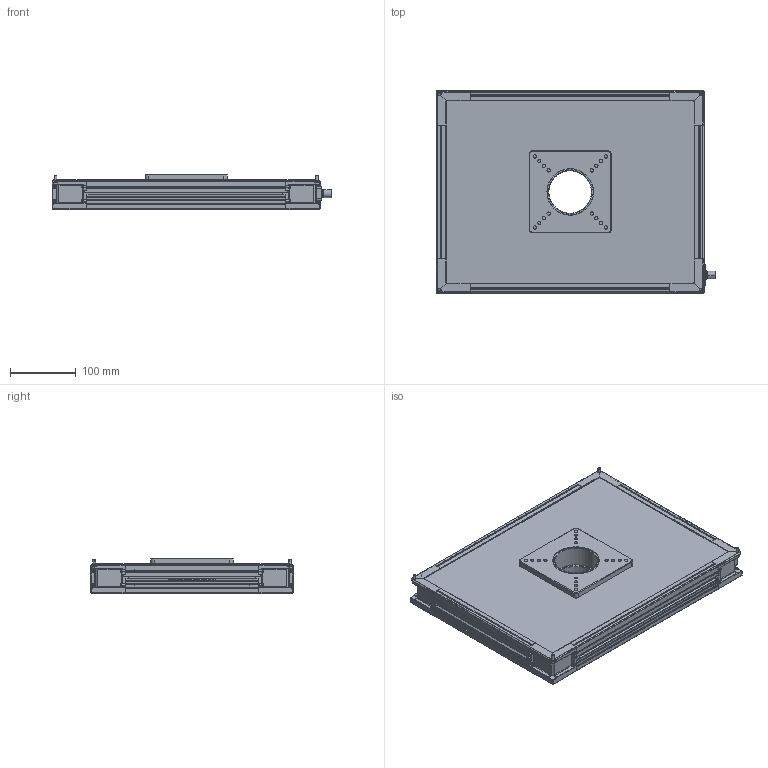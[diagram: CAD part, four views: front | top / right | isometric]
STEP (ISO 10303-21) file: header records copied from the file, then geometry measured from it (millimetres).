
FILE_DESCRIPTION (( 'STEP AP214' ), '1' );
FILE_NAME ('HPFD-4030.STEP', '2019-09-18T11:13:18', ( '' ), ( '' ), 'SwSTEP 2.0', 'SolidWorks 2014', '' );
FILE_SCHEMA (( 'AUTOMOTIVE_DESIGN' ));
Length unit declared in the file: millimetre
Products named in the file (1): HPFD-4030
Bounding box: 425.8 x 308 x 53.85 mm (x, y, z)
Surface area: 397417.2 mm2 (no closed solid volume)
Topology: 0 solids, 72 shells, 1184 faces, 5635 edges, 4336 vertices
Faces by surface type: cylinder 514, plane 476, bspline 150, cone 42, torus 2
Entity records: 85697 total; most frequent: CARTESIAN_POINT 31927, ORIENTED_EDGE 7948, DIRECTION 7442, EDGE_CURVE 5635, VERTEX_POINT 4336, LINE 2686, VECTOR 2686, AXIS2_PLACEMENT_3D 2378
